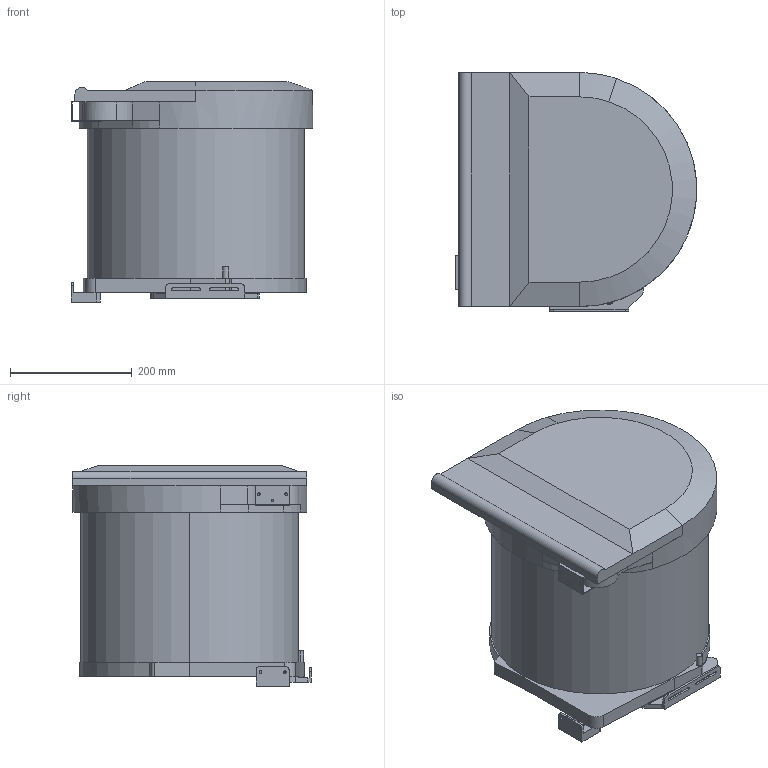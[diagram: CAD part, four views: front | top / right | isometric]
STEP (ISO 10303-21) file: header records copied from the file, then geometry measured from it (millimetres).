
FILE_DESCRIPTION(('STEP AP242'),'1');
FILE_NAME('OPO_53.441.19_volu_schn_3d.stp','2025-11-08T20:31:56',(' '),(' '),'Spatial InterOp 3D',' ',' ');
FILE_SCHEMA(('AP242_MANAGED_MODEL_BASED_3D_ENGINEERING_MIM_LF {1 0 10303 442 1 1 4}'));
Length unit declared in the file: millimetre
Products named in the file (1): 1
Bounding box: 396.31 x 391.4 x 361.5 mm (x, y, z)
Volume: 36119110.4 mm3; surface area: 716526.4 mm2
Topology: 2 solids, 2 shells, 162 faces, 961 edges, 1322 vertices
Faces by surface type: plane 90, cylinder 70, cone 2
Entity records: 12807 total; most frequent: DIRECTION 1503, CARTESIAN_POINT 1415, ORIENTED_EDGE 880, LINE 749, VECTOR 749, STYLED_ITEM 683, PRESENTATION_STYLE_ASSIGNMENT 683, COLOUR_RGB 683
